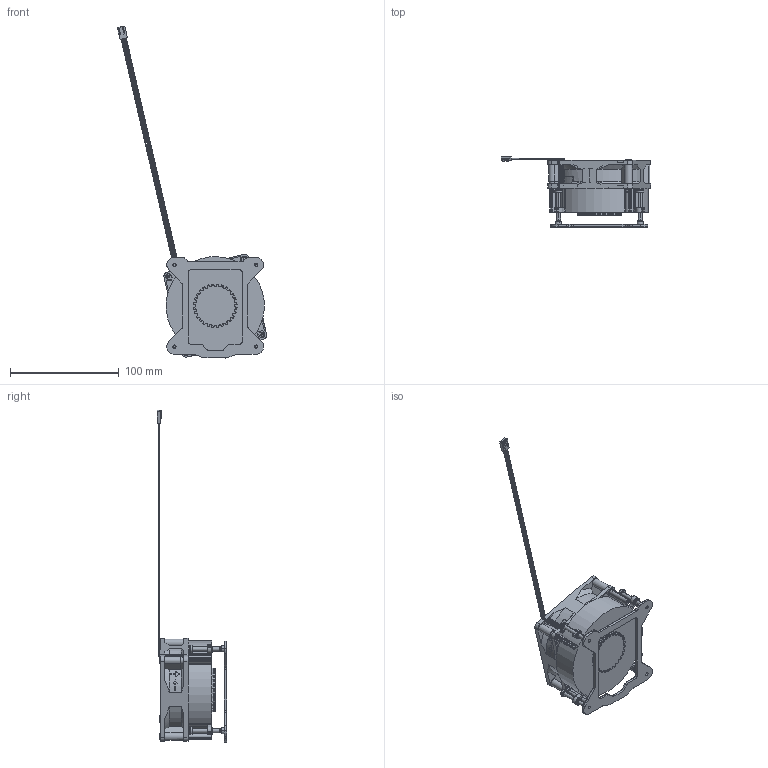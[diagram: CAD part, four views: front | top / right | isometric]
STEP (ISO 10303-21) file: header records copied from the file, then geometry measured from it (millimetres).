
FILE_DESCRIPTION((''),'2;1');
FILE_NAME('RG3219-50-002_ME_ASM','2022-11-21T',('User'),(''),'PRO/ENGINEER BY PARAMETRIC TECHNOLOGY CORPORATION, 2017170','PRO/ENGINEER BY PARAMETRIC TECHNOLOGY CORPORATION, 2017170','');
FILE_SCHEMA(('CONFIG_CONTROL_DESIGN'));
Length unit declared in the file: millimetre
Products named in the file (20): D90X25_AL_SINK__3; D90_25H_AL_ASSY_ASM_1_ASM; DEAKTOP_SCREW_D7_30_8L_1; E-RING_1; DESKTOP_SCREW_ASSY_ASM_1_ASM; DESKTOP_D90_25H_AL_ASSY_ASM_1_ASM; R8025_20191212_2; FAN_LEAF_1; MANIFOLD_SOLID_BREP_139267; MANIFOLD_SOLID_BREP_139386; MANIFOLD_SOLID_BREP_143845; 4PIN_1_ASM; R128025BUAF325AR_ASM_1_ASM; LABEL_R30_1_1; FAN_SCREW_T3X32MM_1; R128025BUAF325AR_25H_ASSY_ASM_1_ASM; 850-BP1156_1; MYLER_1; 850-BP1156_ASSY__ASM_1_ASM; RG3219-50-002_ME_ASM
Assembly tree (25 placements, depth 5):
  RG3219-50-002_ME_ASM
    DESKTOP_D90_25H_AL_ASSY_ASM_1_ASM
      D90_25H_AL_ASSY_ASM_1_ASM
        D90X25_AL_SINK__3
      DESKTOP_SCREW_ASSY_ASM_1_ASM  x4
        DEAKTOP_SCREW_D7_30_8L_1
        E-RING_1
    R128025BUAF325AR_25H_ASSY_ASM_1_ASM
      R128025BUAF325AR_ASM_1_ASM
        R8025_20191212_2
        FAN_LEAF_1
        4PIN_1_ASM
          MANIFOLD_SOLID_BREP_139267
          MANIFOLD_SOLID_BREP_139386
          MANIFOLD_SOLID_BREP_143845
      LABEL_R30_1_1
      FAN_SCREW_T3X32MM_1  x4
    850-BP1156_ASSY__ASM_1_ASM
      850-BP1156_1
      MYLER_1
Bounding box: 137.08 x 63.9 x 304.86 mm (x, y, z)
Volume: 254789.1 mm3; surface area: 95812.8 mm2
Topology: 20 solids, 25 shells, 3057 faces, 8819 edges, 5877 vertices
Faces by surface type: plane 1933, cylinder 807, extrusion 97, bspline 85, cone 61, torus 54, sphere 20
Entity records: 82766 total; most frequent: CARTESIAN_POINT 24550, ORIENTED_EDGE 12654, DIRECTION 11277, EDGE_CURVE 6333, VECTOR 4343, VERTEX_POINT 4252, LINE 4246, AXIS2_PLACEMENT_3D 3467
